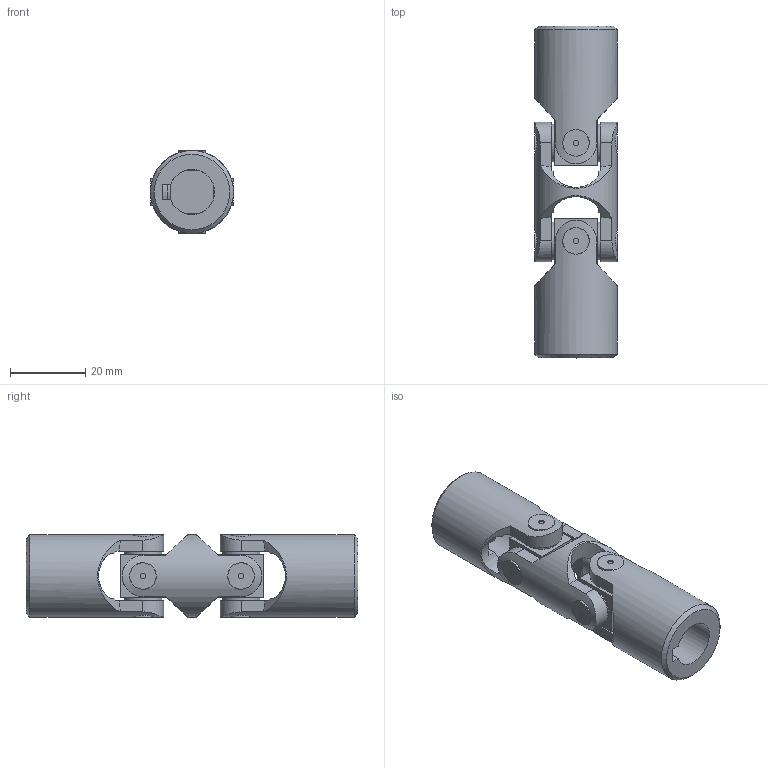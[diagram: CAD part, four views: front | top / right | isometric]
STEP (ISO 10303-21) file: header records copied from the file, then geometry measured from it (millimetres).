
FILE_DESCRIPTION(/* description */ (''),/* implementation_level */ '2;1');
FILE_NAME(/* name */ '\\SRV2016\Societa\Stefano\Disegni 3D\00Catalogo 3D\02Doppi GD-GBD\SGBD122C.stp',/* time_stamp */ '2021-11-22T17:06:27+01:00',/* author */ ('acquisti'),/* organization */ (''),/* preprocessor_version */ 'ST-DEVELOPER v15.6',/* originating_system */ 'Autodesk Inventor 2015',/* authorisation */ '');
FILE_SCHEMA (('AUTOMOTIVE_DESIGN { 1 0 10303 214 3 1 1 }'));
Length unit declared in the file: millimetre
Products named in the file (4): 03G MOD; 03G SFE; 04GB MOC; Ø22_04GBD-00_SGBD1200
Assembly tree (5 placements, depth 2):
  Ø22_04GBD-00_SGBD1200
    03G MOD
    03G SFE  x2
    04GB MOC  x2
Bounding box: 22 x 88 x 22 mm (x, y, z)
Volume: 21127.7 mm3; surface area: 11712.1 mm2
Topology: 5 solids, 5 shells, 146 faces, 340 edges, 222 vertices
Faces by surface type: plane 76, cylinder 46, cone 18, torus 6
Full cylindrical faces by diameter (mm): 1.5 x8, 10 x8, 11.5 x1, 22 x3
Entity records: 3418 total; most frequent: CARTESIAN_POINT 1233, ORIENTED_EDGE 428, DIRECTION 421, EDGE_CURVE 214, AXIS2_PLACEMENT_3D 183, VERTEX_POINT 150, EDGE_LOOP 132, FACE_OUTER_BOUND 99
